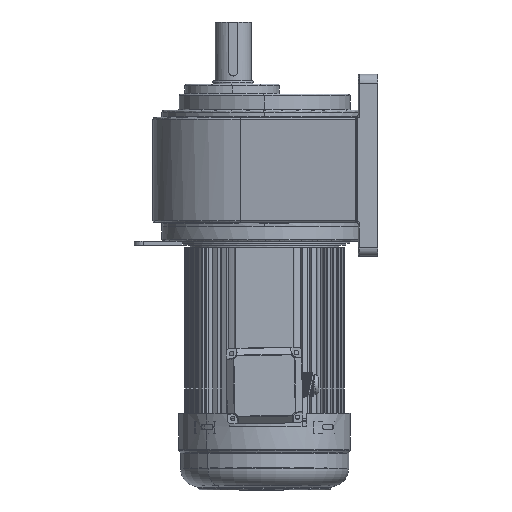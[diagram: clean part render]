
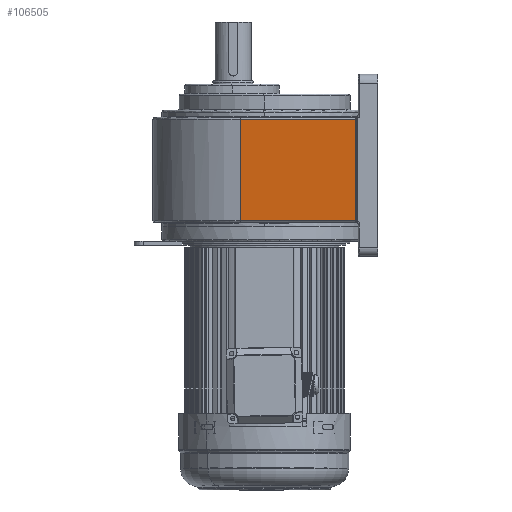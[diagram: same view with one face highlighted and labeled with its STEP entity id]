
A CAD part, left-side view. The second image highlights one B-rep face of the part: STEP entity #106505.
In plain terms, the highlighted planar face has unit normal (-0.989, 0.149, 0).
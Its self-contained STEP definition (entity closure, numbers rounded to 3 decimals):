
#2 = DIRECTION ( 'NONE',  ( -0.149, -0.989, 0. ) ) ;
#2185 = VERTEX_POINT ( 'NONE', #14234 ) ;
#2584 = LINE ( 'NONE', #42858, #106667 ) ;
#4002 = DIRECTION ( 'NONE',  ( -0.149, -0.989, 0. ) ) ;
#9639 = CARTESIAN_POINT ( 'NONE',  ( -132.115, -101.448, 117.5 ) ) ;
#13883 = PLANE ( 'NONE',  #112398 ) ;
#13957 = LINE ( 'NONE', #54299, #80241 ) ;
#14234 = CARTESIAN_POINT ( 'NONE',  ( -132.115, -101.448, 5. ) ) ;
#17898 = ORIENTED_EDGE ( 'NONE', *, *, #27011, .F. ) ;
#17976 = EDGE_CURVE ( 'NONE', #70451, #80712, #13957, .T. ) ;
#22947 = CARTESIAN_POINT ( 'NONE',  ( -112.723, 27.016, 117.5 ) ) ;
#25079 = DIRECTION ( 'NONE',  ( 0., 0., 1. ) ) ;
#27011 = EDGE_CURVE ( 'NONE', #32743, #80712, #2584, .T. ) ;
#32743 = VERTEX_POINT ( 'NONE', #49356 ) ;
#40049 = ORIENTED_EDGE ( 'NONE', *, *, #115344, .T. ) ;
#42858 = CARTESIAN_POINT ( 'NONE',  ( -112.723, 27.016, 3. ) ) ;
#48438 = LINE ( 'NONE', #90510, #90540 ) ;
#49356 = CARTESIAN_POINT ( 'NONE',  ( -112.723, 27.016, 5. ) ) ;
#52226 = EDGE_LOOP ( 'NONE', ( #120972, #40049, #111969, #17898 ) ) ;
#54217 = CARTESIAN_POINT ( 'NONE',  ( -112.723, 27.016, 119.5 ) ) ;
#54299 = CARTESIAN_POINT ( 'NONE',  ( -132.115, -101.448, 117.5 ) ) ;
#70451 = VERTEX_POINT ( 'NONE', #9639 ) ;
#75280 = LINE ( 'NONE', #115606, #121818 ) ;
#80241 = VECTOR ( 'NONE', #94582, 1000. ) ;
#80326 = EDGE_CURVE ( 'NONE', #32743, #2185, #48438, .T. ) ;
#80712 = VERTEX_POINT ( 'NONE', #22947 ) ;
#83199 = DIRECTION ( 'NONE',  ( 0., 0., 1. ) ) ;
#90510 = CARTESIAN_POINT ( 'NONE',  ( -112.723, 27.016, 5. ) ) ;
#90540 = VECTOR ( 'NONE', #2, 1000. ) ;
#94507 = DIRECTION ( 'NONE',  ( -0.989, 0.149, 0. ) ) ;
#94582 = DIRECTION ( 'NONE',  ( 0.149, 0.989, 0. ) ) ;
#104413 = FACE_OUTER_BOUND ( 'NONE', #52226, .T. ) ;
#106505 = ADVANCED_FACE ( 'NONE', ( #104413 ), #13883, .T. ) ;
#106667 = VECTOR ( 'NONE', #83199, 1000. ) ;
#111969 = ORIENTED_EDGE ( 'NONE', *, *, #17976, .T. ) ;
#112398 = AXIS2_PLACEMENT_3D ( 'NONE', #54217, #94507, #4002 ) ;
#115344 = EDGE_CURVE ( 'NONE', #2185, #70451, #75280, .T. ) ;
#115606 = CARTESIAN_POINT ( 'NONE',  ( -132.115, -101.448, 119.5 ) ) ;
#120972 = ORIENTED_EDGE ( 'NONE', *, *, #80326, .T. ) ;
#121818 = VECTOR ( 'NONE', #25079, 1000. ) ;
